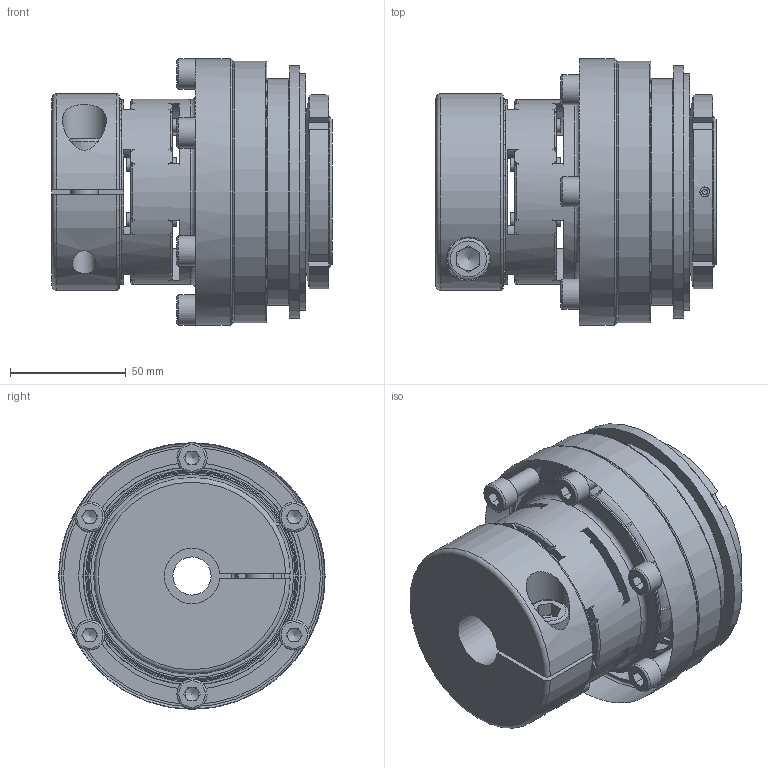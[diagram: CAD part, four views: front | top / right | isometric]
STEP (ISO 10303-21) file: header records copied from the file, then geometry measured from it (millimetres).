
FILE_DESCRIPTION( ( 'Unknown' ), '1' );
FILE_NAME( 'F:/JAKOB-STEP+IGES-Dateien/STEP-Dateien/SKW-EK/SKW-EK 230.stp', 'Unknown', ( 'Unknown' ), ( 'Unknown' ), 'PSStep 10.1', 'Unknown', ' ' );
FILE_SCHEMA( ( 'AUTOMOTIVE_DESIGN { 1 0 10303 214 1 1 1 1 }' ) );
Length unit declared in the file: millimetre
Products named in the file (1): kt100627
Bounding box: 121 x 115 x 115 mm (x, y, z)
Volume: 711780.6 mm3; surface area: 138915.9 mm2
Topology: 1 solids, 9 shells, 485 faces, 1359 edges, 874 vertices
Faces by surface type: plane 198, cylinder 138, torus 70, cone 63, sphere 12, bspline 4
Full cylindrical faces by diameter (mm): 2.5 x2, 4.2 x3, 6 x8, 6.8 x6, 8 x6, 8.6 x6, 10.2 x1, 12 x1, 12.5 x1, 13 x7, 16.5 x1, 18 x2, 19 x1, 38 x2, 47.5 x1, 49 x1, 49.8 x1, 50 x2, 62.5 x2, 65 x2, 65.3 x1, 78.1 x2, 80 x1, 90 x3, 94 x2, 98 x1, 102 x1, 109 x1, 113 x1, 115 x1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
Entity records: 20362 total; most frequent: CARTESIAN_POINT 5093, DIRECTION 2354, ORIENTED_EDGE 2272, EDGE_CURVE 1136, AXIS2_PLACEMENT_3D 1007, VERTEX_POINT 784, EDGE_LOOP 675, FACE_OUTER_BOUND 567
